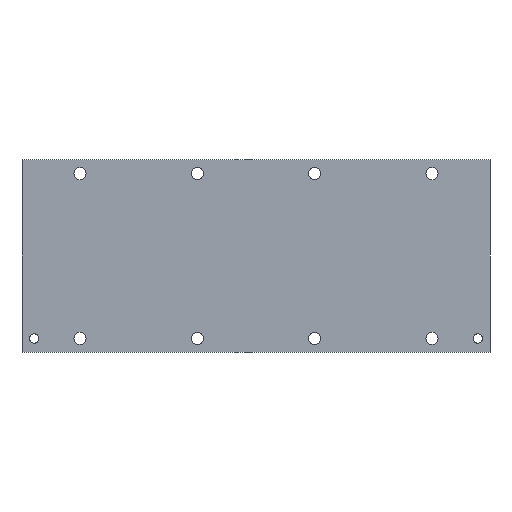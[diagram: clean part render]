
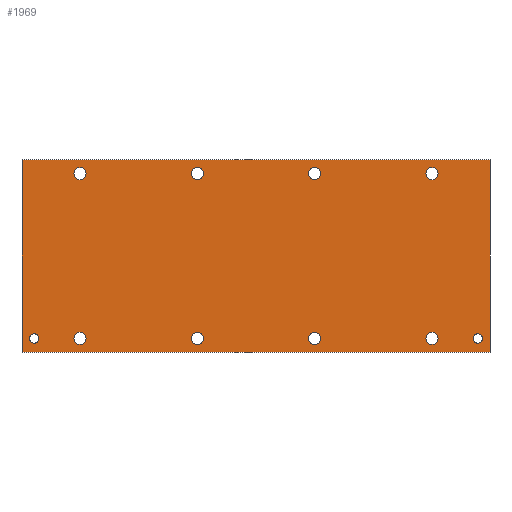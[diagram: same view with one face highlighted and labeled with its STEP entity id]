
A CAD part, front view. The second image highlights one B-rep face of the part: STEP entity #1969.
In plain terms, the highlighted planar face has unit normal (0, -1, 0).
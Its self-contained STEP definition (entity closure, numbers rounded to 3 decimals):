
#13=DIRECTION('',(0.,0.,1.));
#14=VECTOR('',#13,105.);
#15=CARTESIAN_POINT('',(127.65,0.,-52.5));
#16=LINE('',#15,#14);
#17=DIRECTION('',(-1.,0.,0.));
#18=VECTOR('',#17,255.3);
#19=CARTESIAN_POINT('',(127.65,0.,52.5));
#20=LINE('',#19,#18);
#21=DIRECTION('',(-1.,0.,0.));
#22=VECTOR('',#21,255.3);
#23=CARTESIAN_POINT('',(127.65,0.,-52.5));
#24=LINE('',#23,#22);
#25=CARTESIAN_POINT('',(-96.,0.,-45.));
#26=DIRECTION('',(0.,1.,0.));
#27=DIRECTION('',(1.,0.,0.));
#28=AXIS2_PLACEMENT_3D('',#25,#26,#27);
#30=CARTESIAN_POINT('',(-96.,0.,-45.));
#31=DIRECTION('',(0.,1.,0.));
#32=DIRECTION('',(-1.,0.,0.));
#33=AXIS2_PLACEMENT_3D('',#30,#31,#32);
#35=CARTESIAN_POINT('',(-32.,0.,-45.));
#36=DIRECTION('',(0.,1.,0.));
#37=DIRECTION('',(1.,0.,0.));
#38=AXIS2_PLACEMENT_3D('',#35,#36,#37);
#40=CARTESIAN_POINT('',(-32.,0.,-45.));
#41=DIRECTION('',(0.,1.,0.));
#42=DIRECTION('',(-1.,0.,0.));
#43=AXIS2_PLACEMENT_3D('',#40,#41,#42);
#45=CARTESIAN_POINT('',(32.,0.,-45.));
#46=DIRECTION('',(0.,1.,0.));
#47=DIRECTION('',(1.,0.,0.));
#48=AXIS2_PLACEMENT_3D('',#45,#46,#47);
#50=CARTESIAN_POINT('',(32.,0.,-45.));
#51=DIRECTION('',(0.,1.,0.));
#52=DIRECTION('',(-1.,0.,0.));
#53=AXIS2_PLACEMENT_3D('',#50,#51,#52);
#55=CARTESIAN_POINT('',(96.,0.,-45.));
#56=DIRECTION('',(0.,1.,0.));
#57=DIRECTION('',(1.,0.,0.));
#58=AXIS2_PLACEMENT_3D('',#55,#56,#57);
#60=CARTESIAN_POINT('',(96.,0.,-45.));
#61=DIRECTION('',(0.,1.,0.));
#62=DIRECTION('',(-1.,0.,0.));
#63=AXIS2_PLACEMENT_3D('',#60,#61,#62);
#65=CARTESIAN_POINT('',(-96.,0.,45.));
#66=DIRECTION('',(0.,1.,0.));
#67=DIRECTION('',(1.,0.,0.));
#68=AXIS2_PLACEMENT_3D('',#65,#66,#67);
#70=CARTESIAN_POINT('',(-96.,0.,45.));
#71=DIRECTION('',(0.,1.,0.));
#72=DIRECTION('',(-1.,0.,0.));
#73=AXIS2_PLACEMENT_3D('',#70,#71,#72);
#75=CARTESIAN_POINT('',(-32.,0.,45.));
#76=DIRECTION('',(0.,1.,0.));
#77=DIRECTION('',(1.,0.,0.));
#78=AXIS2_PLACEMENT_3D('',#75,#76,#77);
#80=CARTESIAN_POINT('',(-32.,0.,45.));
#81=DIRECTION('',(0.,1.,0.));
#82=DIRECTION('',(-1.,0.,0.));
#83=AXIS2_PLACEMENT_3D('',#80,#81,#82);
#85=CARTESIAN_POINT('',(32.,0.,45.));
#86=DIRECTION('',(0.,1.,0.));
#87=DIRECTION('',(1.,0.,0.));
#88=AXIS2_PLACEMENT_3D('',#85,#86,#87);
#90=CARTESIAN_POINT('',(32.,0.,45.));
#91=DIRECTION('',(0.,1.,0.));
#92=DIRECTION('',(-1.,0.,0.));
#93=AXIS2_PLACEMENT_3D('',#90,#91,#92);
#95=CARTESIAN_POINT('',(96.,0.,45.));
#96=DIRECTION('',(0.,1.,0.));
#97=DIRECTION('',(1.,0.,0.));
#98=AXIS2_PLACEMENT_3D('',#95,#96,#97);
#100=CARTESIAN_POINT('',(96.,0.,45.));
#101=DIRECTION('',(0.,1.,0.));
#102=DIRECTION('',(-1.,0.,0.));
#103=AXIS2_PLACEMENT_3D('',#100,#101,#102);
#105=CARTESIAN_POINT('',(-121.,0.,-45.));
#106=DIRECTION('',(0.,-1.,0.));
#107=DIRECTION('',(1.,0.,0.));
#108=AXIS2_PLACEMENT_3D('',#105,#106,#107);
#110=CARTESIAN_POINT('',(-121.,0.,-45.));
#111=DIRECTION('',(0.,-1.,0.));
#112=DIRECTION('',(-1.,0.,0.));
#113=AXIS2_PLACEMENT_3D('',#110,#111,#112);
#115=CARTESIAN_POINT('',(121.,0.,-45.));
#116=DIRECTION('',(0.,-1.,0.));
#117=DIRECTION('',(1.,0.,0.));
#118=AXIS2_PLACEMENT_3D('',#115,#116,#117);
#120=CARTESIAN_POINT('',(121.,0.,-45.));
#121=DIRECTION('',(0.,-1.,0.));
#122=DIRECTION('',(-1.,0.,0.));
#123=AXIS2_PLACEMENT_3D('',#120,#121,#122);
#525=DIRECTION('',(0.,0.,1.));
#526=VECTOR('',#525,105.);
#527=CARTESIAN_POINT('',(-127.65,0.,-52.5));
#528=LINE('',#527,#526);
#1417=CARTESIAN_POINT('',(127.65,0.,52.5));
#1419=VERTEX_POINT('',#1417);
#1423=CARTESIAN_POINT('',(127.65,0.,-52.5));
#1424=VERTEX_POINT('',#1423);
#1425=CARTESIAN_POINT('',(-127.65,0.,52.5));
#1427=VERTEX_POINT('',#1425);
#1431=CARTESIAN_POINT('',(-127.65,0.,-52.5));
#1432=VERTEX_POINT('',#1431);
#1693=CARTESIAN_POINT('',(-118.445,0.,-45.));
#1694=CARTESIAN_POINT('',(-123.555,0.,-45.));
#1695=VERTEX_POINT('',#1693);
#1696=VERTEX_POINT('',#1694);
#1701=CARTESIAN_POINT('',(123.555,0.,-45.));
#1702=CARTESIAN_POINT('',(118.445,0.,-45.));
#1703=VERTEX_POINT('',#1701);
#1704=VERTEX_POINT('',#1702);
#1717=CARTESIAN_POINT('',(-92.7,0.,-45.));
#1718=CARTESIAN_POINT('',(-99.3,0.,-45.));
#1719=VERTEX_POINT('',#1717);
#1720=VERTEX_POINT('',#1718);
#1733=CARTESIAN_POINT('',(-28.7,0.,-45.));
#1734=CARTESIAN_POINT('',(-35.3,0.,-45.));
#1735=VERTEX_POINT('',#1733);
#1736=VERTEX_POINT('',#1734);
#1749=CARTESIAN_POINT('',(35.3,0.,-45.));
#1750=CARTESIAN_POINT('',(28.7,0.,-45.));
#1751=VERTEX_POINT('',#1749);
#1752=VERTEX_POINT('',#1750);
#1765=CARTESIAN_POINT('',(99.3,0.,-45.));
#1766=CARTESIAN_POINT('',(92.7,0.,-45.));
#1767=VERTEX_POINT('',#1765);
#1768=VERTEX_POINT('',#1766);
#1781=CARTESIAN_POINT('',(-92.7,0.,45.));
#1782=CARTESIAN_POINT('',(-99.3,0.,45.));
#1783=VERTEX_POINT('',#1781);
#1784=VERTEX_POINT('',#1782);
#1797=CARTESIAN_POINT('',(-28.7,0.,45.));
#1798=CARTESIAN_POINT('',(-35.3,0.,45.));
#1799=VERTEX_POINT('',#1797);
#1800=VERTEX_POINT('',#1798);
#1813=CARTESIAN_POINT('',(35.3,0.,45.));
#1814=CARTESIAN_POINT('',(28.7,0.,45.));
#1815=VERTEX_POINT('',#1813);
#1816=VERTEX_POINT('',#1814);
#1829=CARTESIAN_POINT('',(99.3,0.,45.));
#1830=CARTESIAN_POINT('',(92.7,0.,45.));
#1831=VERTEX_POINT('',#1829);
#1832=VERTEX_POINT('',#1830);
#1896=CARTESIAN_POINT('',(127.65,0.,-52.5));
#1897=DIRECTION('',(0.,-1.,0.));
#1898=DIRECTION('',(0.,0.,1.));
#1899=AXIS2_PLACEMENT_3D('',#1896,#1897,#1898);
#1900=PLANE('',#1899);
#1901=ORIENTED_EDGE('',*,*,#1876,.F.);
#1903=ORIENTED_EDGE('',*,*,#1902,.T.);
#1905=ORIENTED_EDGE('',*,*,#1904,.T.);
#1906=ORIENTED_EDGE('',*,*,#1887,.F.);
#1907=EDGE_LOOP('',(#1901,#1903,#1905,#1906));
#1908=FACE_OUTER_BOUND('',#1907,.F.);
#1910=ORIENTED_EDGE('',*,*,#1909,.F.);
#1912=ORIENTED_EDGE('',*,*,#1911,.F.);
#1913=EDGE_LOOP('',(#1910,#1912));
#1914=FACE_BOUND('',#1913,.F.);
#1916=ORIENTED_EDGE('',*,*,#1915,.F.);
#1918=ORIENTED_EDGE('',*,*,#1917,.F.);
#1919=EDGE_LOOP('',(#1916,#1918));
#1920=FACE_BOUND('',#1919,.F.);
#1922=ORIENTED_EDGE('',*,*,#1921,.F.);
#1924=ORIENTED_EDGE('',*,*,#1923,.F.);
#1925=EDGE_LOOP('',(#1922,#1924));
#1926=FACE_BOUND('',#1925,.F.);
#1928=ORIENTED_EDGE('',*,*,#1927,.F.);
#1930=ORIENTED_EDGE('',*,*,#1929,.F.);
#1931=EDGE_LOOP('',(#1928,#1930));
#1932=FACE_BOUND('',#1931,.F.);
#1934=ORIENTED_EDGE('',*,*,#1933,.F.);
#1936=ORIENTED_EDGE('',*,*,#1935,.F.);
#1937=EDGE_LOOP('',(#1934,#1936));
#1938=FACE_BOUND('',#1937,.F.);
#1940=ORIENTED_EDGE('',*,*,#1939,.F.);
#1942=ORIENTED_EDGE('',*,*,#1941,.F.);
#1943=EDGE_LOOP('',(#1940,#1942));
#1944=FACE_BOUND('',#1943,.F.);
#1946=ORIENTED_EDGE('',*,*,#1945,.F.);
#1948=ORIENTED_EDGE('',*,*,#1947,.F.);
#1949=EDGE_LOOP('',(#1946,#1948));
#1950=FACE_BOUND('',#1949,.F.);
#1952=ORIENTED_EDGE('',*,*,#1951,.F.);
#1954=ORIENTED_EDGE('',*,*,#1953,.F.);
#1955=EDGE_LOOP('',(#1952,#1954));
#1956=FACE_BOUND('',#1955,.F.);
#1958=ORIENTED_EDGE('',*,*,#1957,.T.);
#1960=ORIENTED_EDGE('',*,*,#1959,.T.);
#1961=EDGE_LOOP('',(#1958,#1960));
#1962=FACE_BOUND('',#1961,.F.);
#1964=ORIENTED_EDGE('',*,*,#1963,.T.);
#1966=ORIENTED_EDGE('',*,*,#1965,.T.);
#1967=EDGE_LOOP('',(#1964,#1966));
#1968=FACE_BOUND('',#1967,.F.);
#1969=ADVANCED_FACE('',(#1908,#1914,#1920,#1926,#1932,#1938,#1944,#1950,#1956,
#1962,#1968),#1900,.T.);
#29=CIRCLE('',#28,3.3);
#34=CIRCLE('',#33,3.3);
#39=CIRCLE('',#38,3.3);
#44=CIRCLE('',#43,3.3);
#49=CIRCLE('',#48,3.3);
#54=CIRCLE('',#53,3.3);
#59=CIRCLE('',#58,3.3);
#64=CIRCLE('',#63,3.3);
#69=CIRCLE('',#68,3.3);
#74=CIRCLE('',#73,3.3);
#79=CIRCLE('',#78,3.3);
#84=CIRCLE('',#83,3.3);
#89=CIRCLE('',#88,3.3);
#94=CIRCLE('',#93,3.3);
#99=CIRCLE('',#98,3.3);
#104=CIRCLE('',#103,3.3);
#109=CIRCLE('',#108,2.555);
#114=CIRCLE('',#113,2.555);
#119=CIRCLE('',#118,2.555);
#124=CIRCLE('',#123,2.555);
#1876=EDGE_CURVE('',#1424,#1419,#16,.T.);
#1887=EDGE_CURVE('',#1419,#1427,#20,.T.);
#1902=EDGE_CURVE('',#1424,#1432,#24,.T.);
#1904=EDGE_CURVE('',#1432,#1427,#528,.T.);
#1909=EDGE_CURVE('',#1719,#1720,#29,.T.);
#1911=EDGE_CURVE('',#1720,#1719,#34,.T.);
#1915=EDGE_CURVE('',#1735,#1736,#39,.T.);
#1917=EDGE_CURVE('',#1736,#1735,#44,.T.);
#1921=EDGE_CURVE('',#1751,#1752,#49,.T.);
#1923=EDGE_CURVE('',#1752,#1751,#54,.T.);
#1927=EDGE_CURVE('',#1767,#1768,#59,.T.);
#1929=EDGE_CURVE('',#1768,#1767,#64,.T.);
#1933=EDGE_CURVE('',#1783,#1784,#69,.T.);
#1935=EDGE_CURVE('',#1784,#1783,#74,.T.);
#1939=EDGE_CURVE('',#1799,#1800,#79,.T.);
#1941=EDGE_CURVE('',#1800,#1799,#84,.T.);
#1945=EDGE_CURVE('',#1815,#1816,#89,.T.);
#1947=EDGE_CURVE('',#1816,#1815,#94,.T.);
#1951=EDGE_CURVE('',#1831,#1832,#99,.T.);
#1953=EDGE_CURVE('',#1832,#1831,#104,.T.);
#1957=EDGE_CURVE('',#1695,#1696,#109,.T.);
#1959=EDGE_CURVE('',#1696,#1695,#114,.T.);
#1963=EDGE_CURVE('',#1703,#1704,#119,.T.);
#1965=EDGE_CURVE('',#1704,#1703,#124,.T.);
